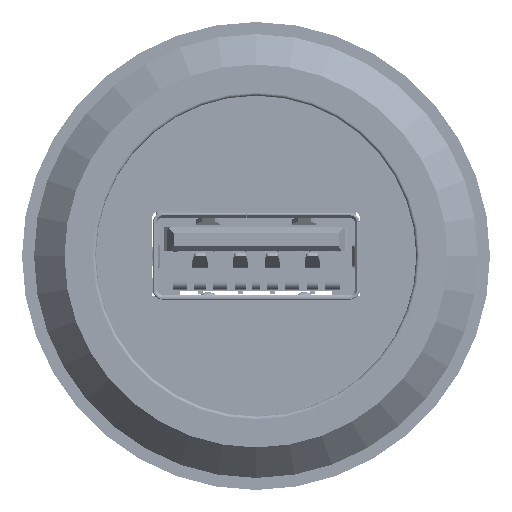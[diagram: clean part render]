
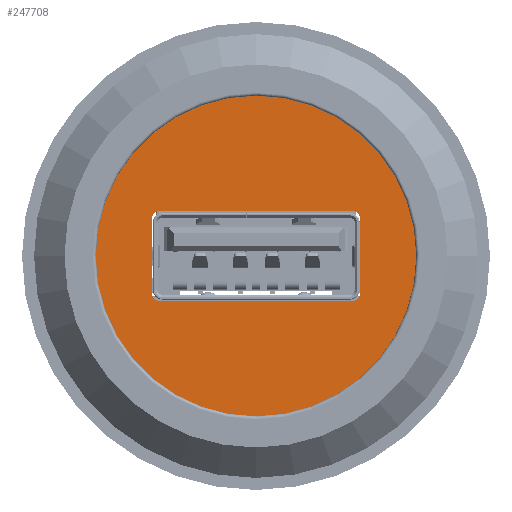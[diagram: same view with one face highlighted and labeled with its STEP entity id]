
A CAD part, front view. The second image highlights one B-rep face of the part: STEP entity #247708.
In plain terms, the highlighted planar face has unit normal (0, -1, 0).
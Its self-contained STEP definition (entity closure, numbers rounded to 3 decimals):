
#247688 = VERTEX_POINT('',#247689);
#247689 = CARTESIAN_POINT('',(10.,-6.5,0.));
#247695 = EDGE_CURVE('',#247688,#247688,#247696,.T.);
#247696 = CIRCLE('',#247697,10.);
#247697 = AXIS2_PLACEMENT_3D('',#247698,#247699,#247700);
#247698 = CARTESIAN_POINT('',(0.,-6.5,0.));
#247699 = DIRECTION('',(-0.,1.,0.));
#247700 = DIRECTION('',(1.,0.,0.));
#247708 = ADVANCED_FACE('',(#247709,#247712),#247782,.F.);
#247709 = FACE_BOUND('',#247710,.F.);
#247710 = EDGE_LOOP('',(#247711));
#247711 = ORIENTED_EDGE('',*,*,#247695,.T.);
#247712 = FACE_BOUND('',#247713,.F.);
#247713 = EDGE_LOOP('',(#247714,#247725,#247733,#247742,#247750,#247759,
    #247767,#247776));
#247714 = ORIENTED_EDGE('',*,*,#247715,.F.);
#247715 = EDGE_CURVE('',#247716,#247718,#247720,.T.);
#247716 = VERTEX_POINT('',#247717);
#247717 = CARTESIAN_POINT('',(-6.5,-6.5,2.3));
#247718 = VERTEX_POINT('',#247719);
#247719 = CARTESIAN_POINT('',(-6.,-6.5,2.8));
#247720 = CIRCLE('',#247721,0.5);
#247721 = AXIS2_PLACEMENT_3D('',#247722,#247723,#247724);
#247722 = CARTESIAN_POINT('',(-6.,-6.5,2.3));
#247723 = DIRECTION('',(0.,1.,-0.));
#247724 = DIRECTION('',(-1.,0.,0.));
#247725 = ORIENTED_EDGE('',*,*,#247726,.T.);
#247726 = EDGE_CURVE('',#247716,#247727,#247729,.T.);
#247727 = VERTEX_POINT('',#247728);
#247728 = CARTESIAN_POINT('',(-6.5,-6.5,-2.3));
#247729 = LINE('',#247730,#247731);
#247730 = CARTESIAN_POINT('',(-6.5,-6.5,-1.4));
#247731 = VECTOR('',#247732,1.);
#247732 = DIRECTION('',(0.,0.,-1.));
#247733 = ORIENTED_EDGE('',*,*,#247734,.F.);
#247734 = EDGE_CURVE('',#247735,#247727,#247737,.T.);
#247735 = VERTEX_POINT('',#247736);
#247736 = CARTESIAN_POINT('',(-6.,-6.5,-2.8));
#247737 = CIRCLE('',#247738,0.5);
#247738 = AXIS2_PLACEMENT_3D('',#247739,#247740,#247741);
#247739 = CARTESIAN_POINT('',(-6.,-6.5,-2.3));
#247740 = DIRECTION('',(0.,1.,-0.));
#247741 = DIRECTION('',(-1.,0.,0.));
#247742 = ORIENTED_EDGE('',*,*,#247743,.T.);
#247743 = EDGE_CURVE('',#247735,#247744,#247746,.T.);
#247744 = VERTEX_POINT('',#247745);
#247745 = CARTESIAN_POINT('',(6.,-6.5,-2.8));
#247746 = LINE('',#247747,#247748);
#247747 = CARTESIAN_POINT('',(-3.25,-6.5,-2.8));
#247748 = VECTOR('',#247749,1.);
#247749 = DIRECTION('',(1.,0.,0.));
#247750 = ORIENTED_EDGE('',*,*,#247751,.F.);
#247751 = EDGE_CURVE('',#247752,#247744,#247754,.T.);
#247752 = VERTEX_POINT('',#247753);
#247753 = CARTESIAN_POINT('',(6.5,-6.5,-2.3));
#247754 = CIRCLE('',#247755,0.5);
#247755 = AXIS2_PLACEMENT_3D('',#247756,#247757,#247758);
#247756 = CARTESIAN_POINT('',(6.,-6.5,-2.3));
#247757 = DIRECTION('',(-0.,1.,0.));
#247758 = DIRECTION('',(1.,0.,0.));
#247759 = ORIENTED_EDGE('',*,*,#247760,.F.);
#247760 = EDGE_CURVE('',#247761,#247752,#247763,.T.);
#247761 = VERTEX_POINT('',#247762);
#247762 = CARTESIAN_POINT('',(6.5,-6.5,2.3));
#247763 = LINE('',#247764,#247765);
#247764 = CARTESIAN_POINT('',(6.5,-6.5,-1.4));
#247765 = VECTOR('',#247766,1.);
#247766 = DIRECTION('',(0.,0.,-1.));
#247767 = ORIENTED_EDGE('',*,*,#247768,.F.);
#247768 = EDGE_CURVE('',#247769,#247761,#247771,.T.);
#247769 = VERTEX_POINT('',#247770);
#247770 = CARTESIAN_POINT('',(6.,-6.5,2.8));
#247771 = CIRCLE('',#247772,0.5);
#247772 = AXIS2_PLACEMENT_3D('',#247773,#247774,#247775);
#247773 = CARTESIAN_POINT('',(6.,-6.5,2.3));
#247774 = DIRECTION('',(-0.,1.,0.));
#247775 = DIRECTION('',(1.,0.,0.));
#247776 = ORIENTED_EDGE('',*,*,#247777,.F.);
#247777 = EDGE_CURVE('',#247718,#247769,#247778,.T.);
#247778 = LINE('',#247779,#247780);
#247779 = CARTESIAN_POINT('',(-3.25,-6.5,2.8));
#247780 = VECTOR('',#247781,1.);
#247781 = DIRECTION('',(1.,0.,0.));
#247782 = PLANE('',#247783);
#247783 = AXIS2_PLACEMENT_3D('',#247784,#247785,#247786);
#247784 = CARTESIAN_POINT('',(0.,-6.5,0.));
#247785 = DIRECTION('',(0.,1.,0.));
#247786 = DIRECTION('',(1.,0.,0.));
